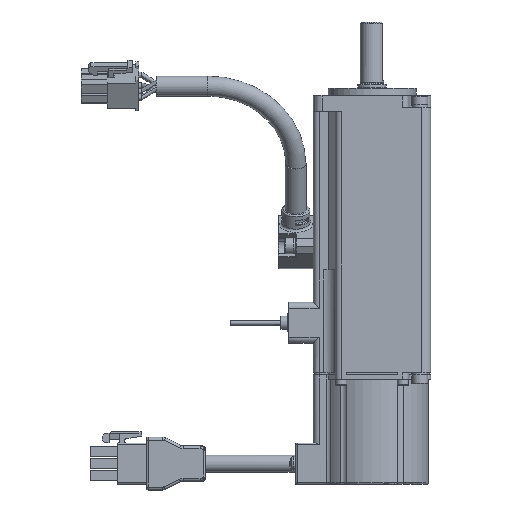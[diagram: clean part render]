
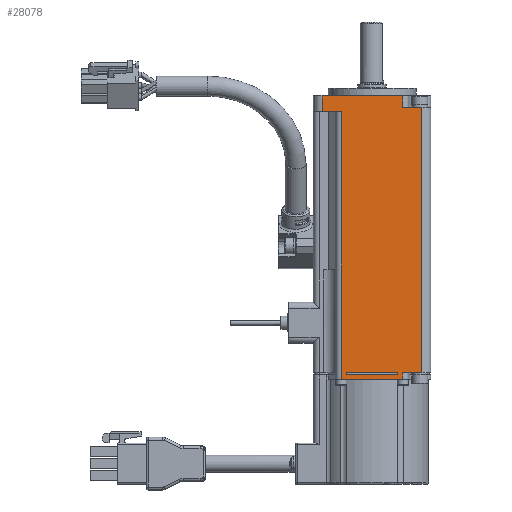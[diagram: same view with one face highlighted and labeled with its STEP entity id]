
A CAD part, left-side view. The second image highlights one B-rep face of the part: STEP entity #28078.
In plain terms, the highlighted planar face has unit normal (-1, 0, 0).
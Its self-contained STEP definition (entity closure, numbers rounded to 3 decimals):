
#547=LINE('',#38520,#2951);
#551=LINE('',#38527,#2955);
#580=LINE('',#38612,#2984);
#606=LINE('',#38726,#3010);
#652=LINE('',#38957,#3056);
#1673=LINE('',#46226,#4077);
#1747=LINE('',#46748,#4151);
#1775=LINE('',#46877,#4179);
#1797=LINE('',#46934,#4201);
#1798=LINE('',#46937,#4202);
#1815=LINE('',#46981,#4219);
#2603=LINE('',#50050,#5007);
#2604=LINE('',#50053,#5008);
#2605=LINE('',#50054,#5009);
#2951=VECTOR('',#31011,1000.);
#2955=VECTOR('',#31017,1000.);
#2984=VECTOR('',#31080,1000.);
#3010=VECTOR('',#31176,1000.);
#3056=VECTOR('',#31310,1000.);
#4077=VECTOR('',#34567,1000.);
#4151=VECTOR('',#34859,1000.);
#4179=VECTOR('',#34981,1000.);
#4201=VECTOR('',#35047,1000.);
#4202=VECTOR('',#35050,1000.);
#4219=VECTOR('',#35095,1000.);
#5007=VECTOR('',#36705,1000.);
#5008=VECTOR('',#36708,1000.);
#5009=VECTOR('',#36709,1000.);
#6898=FACE_BOUND('',#11512,.T.);
#8706=PLANE('',#30286);
#9950=FACE_OUTER_BOUND('',#11511,.T.);
#11511=EDGE_LOOP('',(#24925,#24926,#24927,#24928,#24929,#24930,#24931,#24932,
#24933,#24934));
#11512=EDGE_LOOP('',(#24935,#24936,#24937,#24938));
#12252=VERTEX_POINT('',#38517);
#12253=VERTEX_POINT('',#38519);
#12255=VERTEX_POINT('',#38525);
#12294=VERTEX_POINT('',#38610);
#12346=VERTEX_POINT('',#38723);
#12347=VERTEX_POINT('',#38725);
#12392=VERTEX_POINT('',#38955);
#13613=VERTEX_POINT('',#46744);
#13615=VERTEX_POINT('',#46747);
#13667=VERTEX_POINT('',#46869);
#13669=VERTEX_POINT('',#46875);
#13683=VERTEX_POINT('',#46936);
#13696=VERTEX_POINT('',#46980);
#14298=VERTEX_POINT('',#50052);
#14850=EDGE_CURVE('',#12252,#12253,#547,.T.);
#14854=EDGE_CURVE('',#12255,#12252,#551,.T.);
#14896=EDGE_CURVE('',#12255,#12294,#580,.T.);
#14948=EDGE_CURVE('',#12347,#12346,#606,.T.);
#15021=EDGE_CURVE('',#12346,#12392,#652,.T.);
#16757=EDGE_CURVE('',#12294,#12253,#1673,.T.);
#16912=EDGE_CURVE('',#13613,#13615,#1747,.T.);
#16976=EDGE_CURVE('',#13667,#13669,#1775,.T.);
#17005=EDGE_CURVE('',#13615,#13667,#1797,.T.);
#17006=EDGE_CURVE('',#13683,#13669,#1798,.T.);
#17029=EDGE_CURVE('',#13696,#13683,#1815,.T.);
#17952=EDGE_CURVE('',#12347,#13613,#2603,.T.);
#17953=EDGE_CURVE('',#12392,#14298,#2604,.T.);
#17954=EDGE_CURVE('',#14298,#13696,#2605,.T.);
#24925=ORIENTED_EDGE('',*,*,#17953,.T.);
#24926=ORIENTED_EDGE('',*,*,#17954,.T.);
#24927=ORIENTED_EDGE('',*,*,#17029,.T.);
#24928=ORIENTED_EDGE('',*,*,#17006,.T.);
#24929=ORIENTED_EDGE('',*,*,#16976,.F.);
#24930=ORIENTED_EDGE('',*,*,#17005,.F.);
#24931=ORIENTED_EDGE('',*,*,#16912,.F.);
#24932=ORIENTED_EDGE('',*,*,#17952,.F.);
#24933=ORIENTED_EDGE('',*,*,#14948,.T.);
#24934=ORIENTED_EDGE('',*,*,#15021,.T.);
#24935=ORIENTED_EDGE('',*,*,#14850,.F.);
#24936=ORIENTED_EDGE('',*,*,#14854,.F.);
#24937=ORIENTED_EDGE('',*,*,#14896,.T.);
#24938=ORIENTED_EDGE('',*,*,#16757,.T.);
#28078=ADVANCED_FACE('',(#9950,#6898),#8706,.T.);
#30286=AXIS2_PLACEMENT_3D('',#50051,#36706,#36707);
#31011=DIRECTION('',(0.,0.,1.));
#31017=DIRECTION('',(0.,-1.,0.));
#31080=DIRECTION('',(0.,0.,1.));
#31176=DIRECTION('',(0.,-1.,0.));
#31310=DIRECTION('',(0.,0.,1.));
#34567=DIRECTION('',(0.,-1.,0.));
#34859=DIRECTION('',(0.,1.,0.));
#34981=DIRECTION('',(0.,-1.,0.));
#35047=DIRECTION('',(0.,0.,1.));
#35050=DIRECTION('',(0.,0.,1.));
#35095=DIRECTION('',(0.,1.,0.));
#36705=DIRECTION('',(0.,0.,1.));
#36706=DIRECTION('center_axis',(-1.,0.,0.));
#36707=DIRECTION('ref_axis',(0.,-1.,0.));
#36708=DIRECTION('',(0.,-1.,0.));
#36709=DIRECTION('',(0.,0.,1.));
#38517=CARTESIAN_POINT('',(-20.,-8.75,-70.2));
#38519=CARTESIAN_POINT('',(-20.,-8.75,-69.4));
#38520=CARTESIAN_POINT('',(-20.,-8.75,-78.71));
#38525=CARTESIAN_POINT('',(-20.,8.75,-70.2));
#38527=CARTESIAN_POINT('',(-20.,-20.01,-70.2));
#38610=CARTESIAN_POINT('',(-20.,8.75,-69.4));
#38612=CARTESIAN_POINT('',(-20.,8.75,-77.89));
#38723=CARTESIAN_POINT('',(-20.,-10.5,-71.7));
#38725=CARTESIAN_POINT('',(-20.,10.5,-71.7));
#38726=CARTESIAN_POINT('',(-20.,-10.51,-71.7));
#38955=CARTESIAN_POINT('',(-20.,-10.5,-69.4));
#38957=CARTESIAN_POINT('',(-20.,-10.5,-87.19));
#46226=CARTESIAN_POINT('',(-20.,10.5,-69.4));
#46744=CARTESIAN_POINT('',(-20.,10.5,19.6));
#46747=CARTESIAN_POINT('',(-20.,17.,19.6));
#46748=CARTESIAN_POINT('',(-20.,0.,19.6));
#46869=CARTESIAN_POINT('',(-20.,17.,24.9));
#46875=CARTESIAN_POINT('',(-20.,-10.5,24.9));
#46877=CARTESIAN_POINT('',(-20.,8.5,24.9));
#46934=CARTESIAN_POINT('',(-20.,17.,19.6));
#46936=CARTESIAN_POINT('',(-20.,-10.5,21.1));
#46937=CARTESIAN_POINT('',(-20.,-10.5,19.6));
#46980=CARTESIAN_POINT('',(-20.,-17.,21.1));
#46981=CARTESIAN_POINT('',(-20.,17.,21.1));
#50050=CARTESIAN_POINT('',(-20.,10.5,-27.2));
#50051=CARTESIAN_POINT('Origin',(-20.,12.5,0.));
#50052=CARTESIAN_POINT('',(-20.,-17.,-69.4));
#50053=CARTESIAN_POINT('',(-20.,10.5,-69.4));
#50054=CARTESIAN_POINT('',(-20.,-17.,-27.2));
